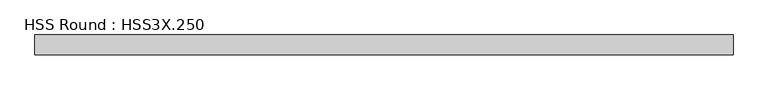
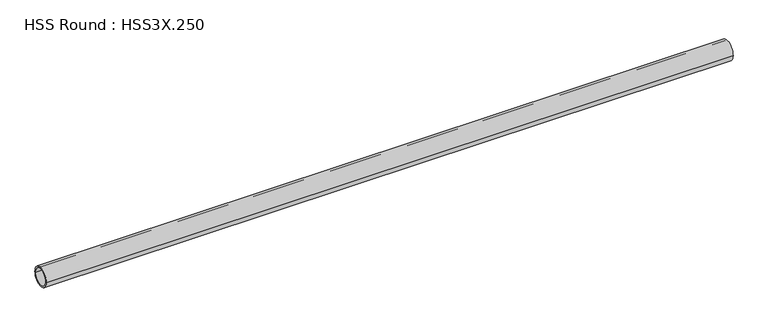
"""IFC4 building model written with IfcOpenShell, lengths in millimetres: member geometry, HSS Round : HSS3X.250."""

from ifc_helpers import new_model, si_unit, point, frame, origin, origin_2d, place, context, project, spatial, circle_curve, trimmed, segment, composite_curve, outline, extrude, source, transform, mapped, element, save


def hss_round_hss3x_250_9fa1828e(model_context):
    return source(origin(), model_context, "Body", "SweptSolid", [
        extrude(outline(composite_curve([segment(trimmed(circle_curve(origin_2d(), 38.1), [point((-38.1, 0.0))], [point((38.1, 0.0))], False, "CARTESIAN"), True, "CONTINUOUS"), segment(trimmed(circle_curve(origin_2d(), 38.1), [point((38.1, 0.0))], [point((-38.1, 0.0))], False, "CARTESIAN"), True, "CONTINUOUS")], self_intersect=False), holes=[composite_curve([segment(trimmed(circle_curve(origin_2d(), 31.75), [point((31.75, 0.0))], [point((-31.75, 0.0))], True, "CARTESIAN"), True, "CONTINUOUS"), segment(trimmed(circle_curve(origin_2d(), 31.75), [point((-31.75, 0.0))], [point((31.75, 0.0))], True, "CARTESIAN"), True, "CONTINUOUS")], self_intersect=False)]), frame((-1391.6853262, 0.0, 0.0), z_axis=(1.0, 0.0, 0.0), x_axis=(0.0, 1.0, 0.0)), (0.0, 0.0, 1.0), 2650.5816389),
    ])


if __name__ == "__main__":
    model = new_model("IFC4")
    model_context = context("Model", 3, world=origin())
    ifc_project = project(units=[si_unit("LENGTHUNIT", "METRE", prefix="MILLI")], contexts=[model_context])
    site = spatial("IfcSite", under=ifc_project)
    building = spatial("IfcBuilding", under=site)
    placement = place(None, origin())
    hss_round_hss3x_250_shape = hss_round_hss3x_250_9fa1828e(model_context)
    element("IfcMember", 1, ObjectType="HSS Round : HSS3X.250", at=placement, inside=building, context=model_context, shape_type="MappedRepresentation", body=[
        mapped(hss_round_hss3x_250_shape, transform((0.0, 0.0, 0.0), x_axis=(1.0, 0.0, 0.0), y_axis=(0.0, 1.0, 0.0), z_axis=(0.0, 0.0, 1.0))),
    ])
    save(model, "model.ifc")
